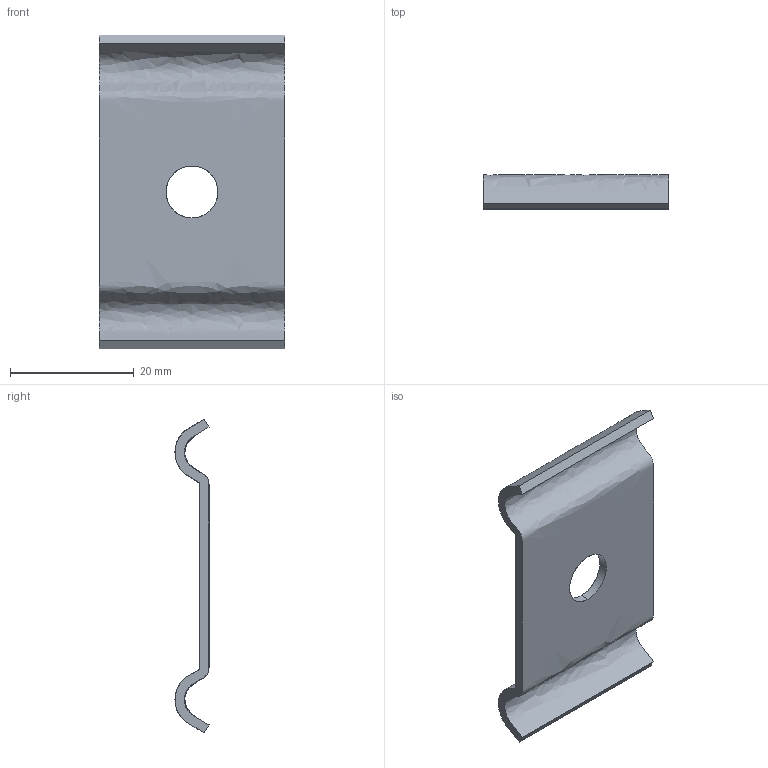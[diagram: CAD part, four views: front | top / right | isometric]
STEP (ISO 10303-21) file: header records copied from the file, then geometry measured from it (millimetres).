
FILE_DESCRIPTION(/* description */ (''),/* implementation_level */ '2;1');
FILE_NAME(/* name */ 'DZM12',/* time_stamp */ '2012-11-29T22:47:22+01:00',/* author */ (''),/* organization */ (''),/* preprocessor_version */ 'ST-DEVELOPER v10',/* originating_system */ '',/* authorisation */ '');
FILE_SCHEMA (('AUTOMOTIVE_DESIGN_CC2'));
Length unit declared in the file: millimetre
Products named in the file (1): 1
Bounding box: 30 x 5.5 x 50.73 mm (x, y, z)
Surface area: 3365.6 mm2 (no closed solid volume)
Topology: 0 solids, 8 shells, 9 faces, 38 edges, 36 vertices
Faces by surface type: bspline 5, plane 4
Entity records: 703 total; most frequent: CARTESIAN_POINT 422, ORIENTED_EDGE 40, EDGE_CURVE 38, VERTEX_POINT 36, B_SPLINE_CURVE_WITH_KNOTS 20, EDGE_LOOP 11, ADVANCED_FACE 9, FACE_OUTER_BOUND 9
